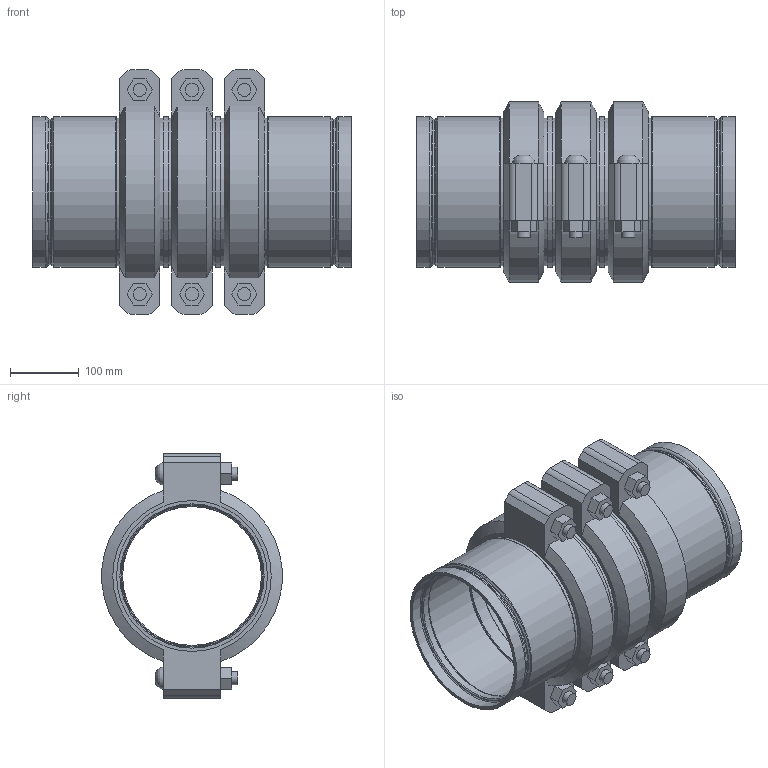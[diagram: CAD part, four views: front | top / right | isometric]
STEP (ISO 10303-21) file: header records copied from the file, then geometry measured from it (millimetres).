
FILE_DESCRIPTION(/* description */ ('VIC STRENGTHIN 100 EXPANSION JOINT 3 COUPLINGS EXPANDED STYLE E155 (ST1)','CAx-IF Rec.Pracs.---Representation and Presentation of Product Manufacturing Information (PMI)---4.0---2014-10-13'),/* implementation_level */ '2;1');
FILE_NAME(/* name */ 'C:\Users\Vjadhav\AppData\Roaming\Autodesk\ApplicationPlugins\Victaulic.Temp\A946\Victaulic_SS-StrengThin 100_Expansion Joint_Expanded_3 Couplings_Style E155 (ST1)_8 (200).stp',/* time_stamp */ '2021-07-23T19:28:27+06:00',/* author */ ('kkamble'),/* organization */ ('Victaulic'),/* preprocessor_version */ 'ST-DEVELOPER v17.2',/* originating_system */ 'Autodesk Inventor 2019',/* authorisation */ '');
FILE_SCHEMA (('AP242_MANAGED_MODEL_BASED_3D_ENGINEERING_MIM_LF { 1 0 10303 442 1 1 4 }'));
Length unit declared in the file: inch
Products named in the file (4): E155-08.0; E494G-08.0; Nipple-08.0; 075-08.0
Assembly tree (7 placements, depth 2):
  E155-08.0
    E494G-08.0  x2
    Nipple-08.0  x2
    075-08.0  x3
Bounding box: 462.79 x 261.72 x 354.84 mm (x, y, z)
Volume: 5837948.5 mm3; surface area: 1171674.8 mm2
Topology: 7 solids, 13 shells, 265 faces, 689 edges, 492 vertices
Faces by surface type: plane 134, cylinder 77, torus 32, cone 16, bspline 6
Full cylindrical faces by diameter (mm): 19.05 x12, 21.209 x6, 201.651 x2, 202.717 x2, 204.851 x2, 209.525 x6, 211.201 x2, 212.725 x3, 214.401 x6, 219.075 x18
Entity records: 3769 total; most frequent: DIRECTION 667, CARTESIAN_POINT 662, ORIENTED_EDGE 556, AXIS2_PLACEMENT_3D 284, EDGE_CURVE 278, VERTEX_POINT 201, CIRCLE 171, EDGE_LOOP 131
